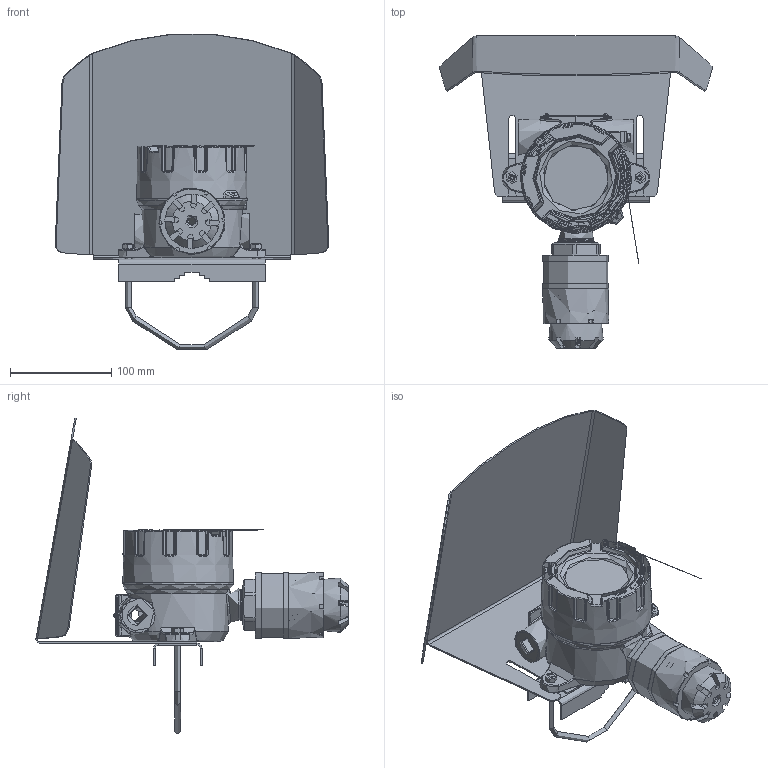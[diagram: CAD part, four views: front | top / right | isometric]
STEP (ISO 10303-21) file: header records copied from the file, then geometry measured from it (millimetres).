
FILE_DESCRIPTION(('STEP AP214'), '1');
FILE_NAME('ÄÃÑ Ýðèñ-210_Êîðïóñ', '', ('UNSPECIFIED'), ('UNSPECIFIED'), 'ASCON STEP Converter 1.3', 'ASCON Math Kernel', '');
FILE_SCHEMA(('AUTOMOTIVE_DESIGN { 1 0 10303 214 3 1 1}'));
Length unit declared in the file: millimetre
Products named in the file (23): korpus XD-I-obrobka - KU12-15; USZCZELKA XD-I ; podklladka PTN-1,5; podkl. M4; wkret PTN-1,5; podkladka. ET4; podkl. M5; wkret ETN-4; L4357- Pokrywa XD-ILwin - obrobka - napis w j.rosyjskim - ku13-16; L1652.1; L2239-piersc W95x3.; wkrêt blok M3; 橾迕.413216.210.06.01-06; jin75D2nz67; 橾迕.413216.007.01; 橾迕.413216.022.01; 橾迕.413216.022.02; 橾迕.413216.210.12
Assembly tree (24 placements, depth 3):
  (unnamed)
    (unnamed)
      korpus XD-I-obrobka - KU12-15
      USZCZELKA XD-I 
      podklladka PTN-1,5
      podkl. M4
      wkret PTN-1,5
      podkladka. ET4
      podkl. M5
      wkret ETN-4
    (unnamed)
      L4357- Pokrywa XD-ILwin - obrobka - napis w j.rosyjskim - ku13-16
      L1652.1
      L2239-piersc W95x3.
      wkrêt blok M3
    橾迕.413216.210.06.01-06
    jin75D2nz67
    橾迕.413216.007.01
    橾迕.413216.022.01
    橾迕.413216.022.02
    (unnamed)  x2
    橾迕.413216.210.12
    (unnamed)  x2
Bounding box: 270.61 x 308.85 x 312.33 mm (x, y, z)
Volume: 376245.3 mm3; surface area: 421778.9 mm2
Topology: 20 solids, 22 shells, 4456 faces, 12170 edges, 7790 vertices
Faces by surface type: plane 2110, extrusion 1417, bspline 308, cylinder 305, cone 133, torus 113, sphere 70
Full cylindrical faces by diameter (mm): 0.75 x12, 2 x5, 2.459 x11, 2.5 x2, 2.6 x1, 2.8 x1, 3 x1, 3.242 x1, 3.5 x2, 3.6 x3, 3.9 x1, 4 x1, 4.1 x1, 4.134 x1, 4.5 x1, 4.9 x1, 4.917 x2, 5 x1, 5.1 x1, 6 x5, 7 x1, 7.28 x1, 7.95 x8, 8.28 x1, 8.4 x1, 10.106 x1, 17 x1, 18.376 x3, 20 x1, 30 x3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
Entity records: 203594 total; most frequent: CARTESIAN_POINT 65760, ORIENTED_EDGE 22884, DIRECTION 15583, EDGE_CURVE 11442, VECTOR 7881, VERTEX_POINT 7590, LINE 6464, B_SPLINE_CURVE_WITH_KNOTS 5278
